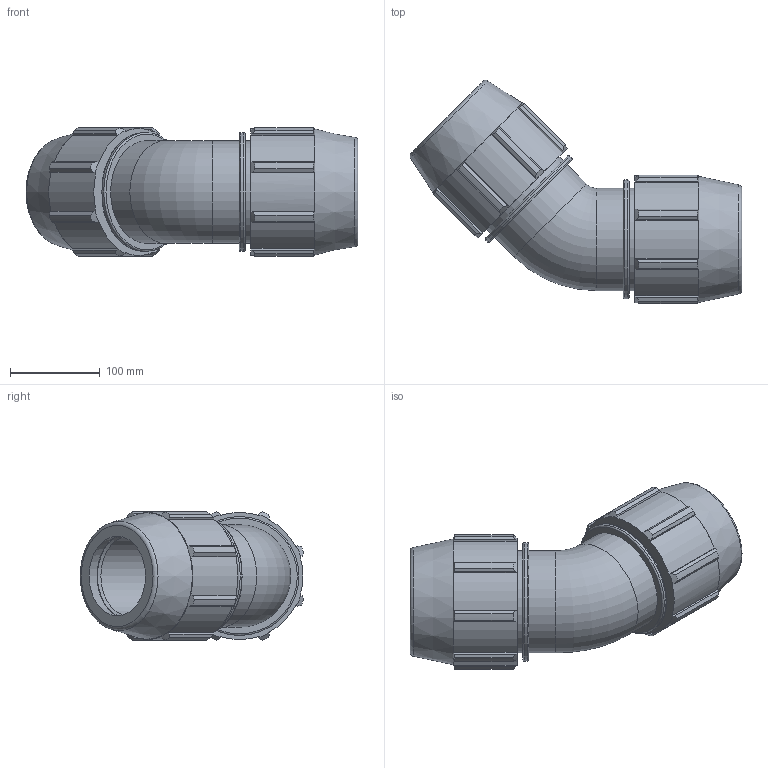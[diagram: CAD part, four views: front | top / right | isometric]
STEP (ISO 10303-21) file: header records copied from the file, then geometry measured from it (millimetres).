
FILE_DESCRIPTION(/* description */ ('PLASSON 45° ELBOW 3'''' - 3'''''),/* implementation_level */ '2;1');
FILE_NAME(/* name */ 'C:\Dropbox\KIMPROJECTS-Inventor 2019\99-16-3568-Processing Inch\ASTM Compression 2021\0706M0\0706M0030.ipt.stp',/* time_stamp */ '2021-08-26T12:32:17+03:00',/* author */ ('KIM'),/* organization */ (''),/* preprocessor_version */ 'ST-DEVELOPER v17.2',/* originating_system */ 'Autodesk Inventor 2019',/* authorisation */ '');
FILE_SCHEMA (('AUTOMOTIVE_DESIGN { 1 0 10303 214 3 1 1 }'));
Length unit declared in the file: inch
Products named in the file (1): 0706M0030
Bounding box: 368.89 x 248.33 x 142.92 mm (x, y, z)
Volume: 2693494.3 mm3; surface area: 306086 mm2
Topology: 1 solids, 1 shells, 146 faces, 431 edges, 295 vertices
Faces by surface type: plane 74, cylinder 40, cone 24, torus 8
Full cylindrical faces by diameter (mm): 88.7 x2, 113.919 x4, 132.146 x2
Entity records: 5103 total; most frequent: CARTESIAN_POINT 1001, ORIENTED_EDGE 862, DIRECTION 820, EDGE_CURVE 431, AXIS2_PLACEMENT_3D 306, VERTEX_POINT 295, LINE 208, VECTOR 208
